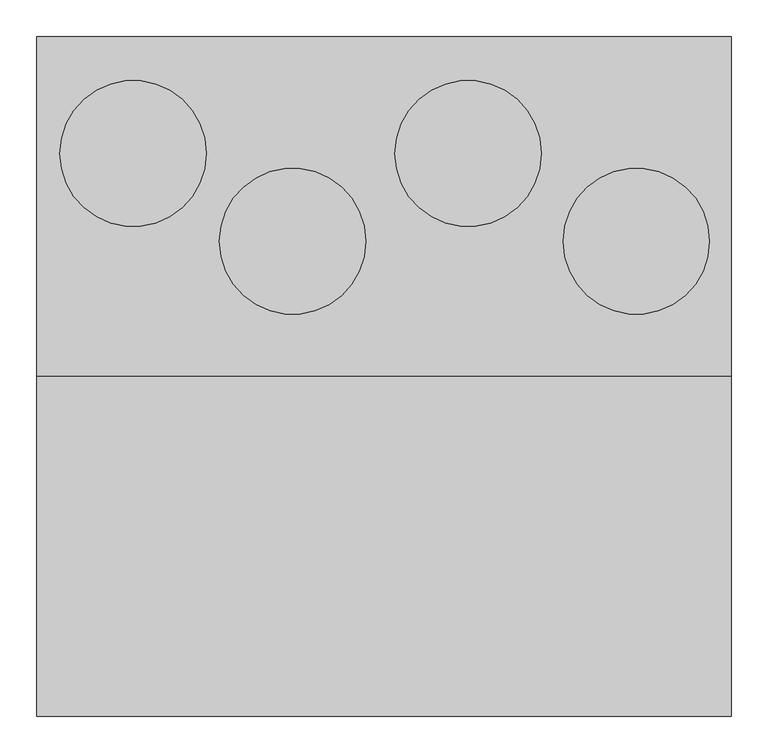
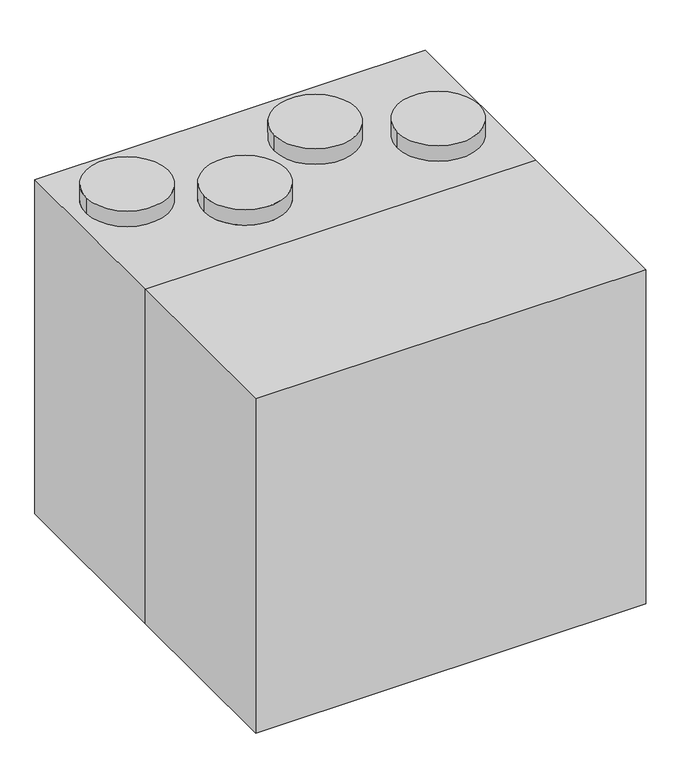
"""IFC4 building model written with IfcOpenShell, lengths in millimetres: proxy geometry, ADSK_КПВУ BRISSAGO VPE_круглая : Brissago VPE 800."""

import ifcopenshell
import ifcopenshell.guid

model = None  # the IFC model being written
_history = None  # IfcOwnerHistory: only IFC2X3 demands one
_inside = {}  # id of a spatial element -> (the spatial element, [elements in it])
_under = {}  # id of a project, library or spatial element -> (it, [spatial elements below it])
_declared = {}  # id of a project -> (the project, [libraries it declares])
_typed = {}  # id of a type object -> (the type object, [elements of that type])
_made_of = {}  # id of a material, layer set ... -> (it, [elements and type objects made of it])


def new_model(schema):
    """Start an empty IFC model of exactly this schema.

    Asked for "IFC4X3", IfcOpenShell would pick the latest addendum, in which some entities
    have other attributes; the version numbers below select the first issue.
    IFC2X3 requires an IfcOwnerHistory on every rooted entity: one is made here for all.
    """
    global model, _history
    if schema == "IFC4X3":
        model = ifcopenshell.file(schema_version=(4, 3, 0, 0))
    else:
        model = ifcopenshell.file(schema=schema)
    _inside.clear()
    _under.clear()
    _declared.clear()
    _typed.clear()
    _made_of.clear()
    _history = None
    if model.schema == "IFC2X3":
        org = make("IfcOrganization", Name="unknown")
        user = make(
            "IfcPersonAndOrganization",
            ThePerson=make("IfcPerson", FamilyName="unknown"),
            TheOrganization=org,
        )
        app = make(
            "IfcApplication",
            ApplicationDeveloper=org,
            Version="unknown",
            ApplicationFullName="unknown",
            ApplicationIdentifier="unknown",
        )
        _history = make(
            "IfcOwnerHistory",
            OwningUser=user,
            OwningApplication=app,
            ChangeAction="ADDED",
            CreationDate=0,
        )
    return model


def make(cls, **values):
    """One entity of the class cls with the attributes given. An attribute that is None is left unset."""
    return model.create_entity(
        cls, **{name: value for name, value in values.items() if value is not None}
    )


def rooted(cls, **values):
    """An entity with a GlobalId (a new one), such as an element, a storey or a relation."""
    return make(cls, GlobalId=ifcopenshell.guid.new(), OwnerHistory=_history, **values)


def si_unit(unit_type, name, prefix=None):
    """IfcSIUnit, for example si_unit("LENGTHUNIT", "METRE", prefix="MILLI")."""
    return make("IfcSIUnit", UnitType=unit_type, Prefix=prefix, Name=name)


def assignment(units):
    """IfcUnitAssignment: the units of a project."""
    return None if units is None else make("IfcUnitAssignment", Units=units)


def point(xyz):
    """IfcCartesianPoint."""
    return None if xyz is None else make("IfcCartesianPoint", Coordinates=xyz)


def direction(xyz):
    """IfcDirection."""
    return None if xyz is None else make("IfcDirection", DirectionRatios=xyz)


def frame(location, z_axis=None, x_axis=None):
    """IfcAxis2Placement3D, a coordinate frame: its origin and axes. An axis left out is left unset."""
    return make(
        "IfcAxis2Placement3D",
        Location=point(location),
        Axis=direction(z_axis),
        RefDirection=direction(x_axis),
    )


def origin():
    """The frame at (0, 0, 0) with its axes left unset."""
    return frame((0.0, 0.0, 0.0))


def origin_with_axes():
    """The frame at (0, 0, 0) with the z axis (0, 0, 1) and the x axis (1, 0, 0) written out."""
    return frame((0.0, 0.0, 0.0), z_axis=(0.0, 0.0, 1.0), x_axis=(1.0, 0.0, 0.0))


def place(relative_to, where):
    """IfcLocalPlacement: puts the frame where relative to a parent placement (None: the world)."""
    return make(
        "IfcLocalPlacement", PlacementRelTo=relative_to, RelativePlacement=where
    )


def context(
    kind, dimensions, precision=None, world=None, true_north=None, identifier=None
):
    """IfcGeometricRepresentationContext, for example the 3D "Model" context."""
    return make(
        "IfcGeometricRepresentationContext",
        ContextIdentifier=identifier,
        ContextType=kind,
        CoordinateSpaceDimension=dimensions,
        Precision=precision,
        WorldCoordinateSystem=world,
        TrueNorth=true_north,
    )


def project(units=None, contexts=None):
    """IfcProject with its units and contexts."""
    return rooted(
        "IfcProject",
        Name="project",
        RepresentationContexts=contexts,
        UnitsInContext=assignment(units),
    )


def spatial(cls, under=None, at=None, **own):
    """A site, building, storey or space (cls), placed at a placement, below another one or the project."""
    s = rooted(cls, ObjectPlacement=at, **own)
    if under is not None:
        _under.setdefault(under.id(), (under, []))[1].append(s)
    return s


def polyline(points):
    """IfcPolyline through the points."""
    return make("IfcPolyline", Points=[point(p) for p in points])


def circle_curve(where, radius):
    """IfcCircle in the frame where."""
    return make("IfcCircle", Position=where, Radius=radius)


def outline(outer, holes=None, kind="AREA"):
    """IfcArbitraryClosedProfileDef: a profile drawn as a closed curve; with holes, ...WithVoids."""
    if holes is None:
        return make("IfcArbitraryClosedProfileDef", ProfileType=kind, OuterCurve=outer)
    return make(
        "IfcArbitraryProfileDefWithVoids",
        ProfileType=kind,
        OuterCurve=outer,
        InnerCurves=holes,
    )


def extrude(swept, where, along, depth):
    """IfcExtrudedAreaSolid: the profile swept, set in the frame where, extruded along a direction by depth."""
    return make(
        "IfcExtrudedAreaSolid",
        SweptArea=swept,
        Position=where,
        ExtrudedDirection=direction(along),
        Depth=depth,
    )


def shape(context_of_items, identifier, shape_type, items):
    """IfcShapeRepresentation: the items that make up one representation, for example the "Body"."""
    return make(
        "IfcShapeRepresentation",
        ContextOfItems=context_of_items,
        RepresentationIdentifier=identifier,
        RepresentationType=shape_type,
        Items=items,
    )


def source(mapping_origin, context_of_items, identifier, shape_type, items):
    """IfcRepresentationMap: a shape defined once, which mapped items show again and again."""
    return make(
        "IfcRepresentationMap",
        MappingOrigin=mapping_origin,
        MappedRepresentation=shape(context_of_items, identifier, shape_type, items),
    )


def transform(
    local_origin,
    x_axis=None,
    y_axis=None,
    z_axis=None,
    scale=None,
    scale2=None,
    scale3=None,
    uniform=True,
):
    """IfcCartesianTransformationOperator3D, or its non-uniform kind. x_axis, y_axis, z_axis: its Axis1, 2, 3."""
    if uniform:
        return make(
            "IfcCartesianTransformationOperator3D",
            Axis1=direction(x_axis),
            Axis2=direction(y_axis),
            LocalOrigin=point(local_origin),
            Scale=scale,
            Axis3=direction(z_axis),
        )
    return make(
        "IfcCartesianTransformationOperator3DnonUniform",
        Axis1=direction(x_axis),
        Axis2=direction(y_axis),
        LocalOrigin=point(local_origin),
        Scale=scale,
        Axis3=direction(z_axis),
        Scale2=scale2,
        Scale3=scale3,
    )


def mapped(mapping_source, mapping_target):
    """IfcMappedItem: shows the shape of a source again, moved by a transform."""
    return make(
        "IfcMappedItem", MappingSource=mapping_source, MappingTarget=mapping_target
    )


def made_of(thing, what):
    """Note that an element or type object is made of a material, layer set ...; save() writes the relation."""
    if what is not None:
        _made_of.setdefault(what.id(), (what, []))[1].append(thing)
    return thing


def element(
    cls,
    number,
    at=None,
    inside=None,
    cuts=None,
    type_object=None,
    material=None,
    context=None,
    identifier="Body",
    shape_type=None,
    held_by="IfcProductDefinitionShape",
    body=None,
    shapes=None,
    **own,
):
    """One element of the class cls, such as IfcWall. Its Tag is "e" and its number.

    at: its placement. inside: the storey or other place that contains it. cuts: it is an
    opening in that element (IfcRelVoidsElement). A single representation is given by context,
    identifier, shape_type and body (its items); several are given by shapes. held_by: the class
    of the entity that holds the representations. save() writes the other relations.
    """
    e = rooted(cls, Tag="e%d" % number, ObjectPlacement=at, **own)
    if body is not None:
        shapes = [shape(context, identifier, shape_type, body)]
    if shapes is not None:
        e.Representation = make(held_by, Representations=shapes)
    if inside is not None:
        _inside.setdefault(inside.id(), (inside, []))[1].append(e)
    if cuts is not None:
        rooted(
            "IfcRelVoidsElement", RelatingBuildingElement=cuts, RelatedOpeningElement=e
        )
    if type_object is not None:
        _typed.setdefault(type_object.id(), (type_object, []))[1].append(e)
    return made_of(e, material)


def aggregate(whole, parts):
    """IfcRelAggregates: a whole, such as a stair, and the parts it consists of."""
    return rooted("IfcRelAggregates", RelatingObject=whole, RelatedObjects=parts)


def save(model, path):
    """Write the relations noted so far, then the file.

    IfcRelAggregates (storeys below a building ...), IfcRelContainedInSpatialStructure (elements
    in a storey), IfcRelDefinesByType, IfcRelAssociatesMaterial and IfcRelDeclares: one each for
    every whole, place, type object, material and project.
    """
    for whole, parts in _under.values():
        aggregate(whole, parts)
    for where, things in _inside.values():
        rooted(
            "IfcRelContainedInSpatialStructure",
            RelatedElements=things,
            RelatingStructure=where,
        )
    for kind, things in _typed.values():
        rooted("IfcRelDefinesByType", RelatedObjects=things, RelatingType=kind)
    for what, things in _made_of.values():
        rooted("IfcRelAssociatesMaterial", RelatedObjects=things, RelatingMaterial=what)
    for by, libraries in _declared.values():
        rooted("IfcRelDeclares", RelatingContext=by, RelatedDefinitions=libraries)
    model.write(path)


def plane_surface(at):
    """IfcPlane: the flat surface through the origin of the frame at, square to its z axis."""
    return make("IfcPlane", Position=at)


def cylinder_surface(at, radius):
    """IfcCylindricalSurface: all points at the distance radius from the z axis of the frame at."""
    return make("IfcCylindricalSurface", Position=at, Radius=radius)


def advanced_brep(points, edges, surfaces, faces):
    """IfcAdvancedBrep: a solid bounded by faces that lie on surfaces and meet in shared edges.

    An edge is (start, end): straight between two places in points (the first is 0);
    or (start, end, curve); or (start, end, curve, False) where it runs against its curve.
    A face is (place in surfaces, loops), or (place, loops, False) where it looks against
    its surface's normal. A loop lists edges by number (the first is 1), with a minus sign
    where the edge is run from its end to its start. The first loop is the outer one.
    """
    corners = [point(p) for p in points]
    vertices = [make("IfcVertexPoint", VertexGeometry=c) for c in corners]
    made = []
    for start, end, *more in edges:
        made.append(
            make(
                "IfcEdgeCurve",
                EdgeStart=vertices[start],
                EdgeEnd=vertices[end],
                EdgeGeometry=more[0] if more else make("IfcPolyline", Points=[corners[start], corners[end]]),
                SameSense=more[1] if len(more) > 1 else True,
            )
        )
    hull = []
    for where, loops, *sense in faces:
        bounds = []
        for j, loop in enumerate(loops):
            ring = [make("IfcOrientedEdge", EdgeElement=made[abs(k) - 1], Orientation=k > 0) for k in loop]
            bounds.append(
                make(
                    "IfcFaceOuterBound" if j == 0 else "IfcFaceBound",
                    Bound=make("IfcEdgeLoop", EdgeList=ring),
                    Orientation=True,
                )
            )
        hull.append(make("IfcAdvancedFace", Bounds=bounds, FaceSurface=surfaces[where], SameSense=sense[0] if sense else True))
    return make("IfcAdvancedBrep", Outer=make("IfcClosedShell", CfsFaces=hull))


def mechanical_equipment_f99d62ba(model_context):
    return source(origin(), model_context, "Body", "SolidModel", [
        extrude(outline(polyline([(741.0, -232.5), (741.0, -697.5), (-209.0, -697.5), (-209.0, -232.5), (741.0, -232.5)])), origin_with_axes(), (0.0, 0.0, 1.0), 860.0),
        advanced_brep(
        [(741.0, -232.5, 0.0), (741.0, -232.5, 860.0), (-209.0, -232.5, 860.0), (-209.0, -232.5, 0.0), (-209.0, 232.5, 0.0), (-209.0, 232.5, 860.0), (741.0, 232.5, 860.0), (741.0, 232.5, 0.0), (-177.0, 72.5, 900.0), (23.0, 72.5, 900.0), (41.0, -47.5, 900.0), (241.0, -47.5, 900.0), (281.0, 72.5, 900.0), (481.0, 72.5, 900.0), (511.0, -47.5, 900.0), (711.0, -47.5, 900.0), (-177.0, 72.5, 860.0), (23.0, 72.5, 860.0), (41.0, -47.5, 860.0), (241.0, -47.5, 860.0), (281.0, 72.5, 860.0), (481.0, 72.5, 860.0), (511.0, -47.5, 860.0), (711.0, -47.5, 860.0)],
        [
            (0, 1),
            (1, 2),
            (2, 3),
            (3, 0),
            (4, 5),
            (5, 6),
            (6, 7),
            (7, 4),
            (7, 0),
            (3, 4),
            (8, 9, circle_curve(frame((-77.0, 72.5, 900.0), z_axis=(0.0, 0.0, 1.0), x_axis=(1.0, 0.0, 0.0)), 100.0)),
            (9, 8, circle_curve(frame((-77.0, 72.5, 900.0), z_axis=(0.0, 0.0, 1.0), x_axis=(1.0, 0.0, 0.0)), 100.0)),
            (10, 11, circle_curve(frame((141.0, -47.5, 900.0), z_axis=(0.0, 0.0, 1.0), x_axis=(1.0, 0.0, 0.0)), 100.0)),
            (11, 10, circle_curve(frame((141.0, -47.5, 900.0), z_axis=(0.0, 0.0, 1.0), x_axis=(1.0, 0.0, 0.0)), 100.0)),
            (12, 13, circle_curve(frame((381.0, 72.5, 900.0), z_axis=(0.0, 0.0, 1.0), x_axis=(1.0, 0.0, 0.0)), 100.0)),
            (13, 12, circle_curve(frame((381.0, 72.5, 900.0), z_axis=(0.0, 0.0, 1.0), x_axis=(1.0, 0.0, 0.0)), 100.0)),
            (14, 15, circle_curve(frame((611.0, -47.5, 900.0), z_axis=(0.0, 0.0, 1.0), x_axis=(1.0, 0.0, 0.0)), 100.0)),
            (15, 14, circle_curve(frame((611.0, -47.5, 900.0), z_axis=(0.0, 0.0, 1.0), x_axis=(1.0, 0.0, 0.0)), 100.0)),
            (8, 16),
            (16, 17, circle_curve(frame((-77.0, 72.5, 860.0), z_axis=(0.0, 0.0, 1.0), x_axis=(1.0, 0.0, 0.0)), 100.0)),
            (17, 9),
            (17, 16, circle_curve(frame((-77.0, 72.5, 860.0), z_axis=(0.0, 0.0, 1.0), x_axis=(1.0, 0.0, 0.0)), 100.0)),
            (10, 18),
            (18, 19, circle_curve(frame((141.0, -47.5, 860.0), z_axis=(0.0, 0.0, 1.0), x_axis=(1.0, 0.0, 0.0)), 100.0)),
            (19, 11),
            (19, 18, circle_curve(frame((141.0, -47.5, 860.0), z_axis=(0.0, 0.0, 1.0), x_axis=(1.0, 0.0, 0.0)), 100.0)),
            (12, 20),
            (20, 21, circle_curve(frame((381.0, 72.5, 860.0), z_axis=(0.0, 0.0, 1.0), x_axis=(1.0, 0.0, 0.0)), 100.0)),
            (21, 13),
            (21, 20, circle_curve(frame((381.0, 72.5, 860.0), z_axis=(0.0, 0.0, 1.0), x_axis=(1.0, 0.0, 0.0)), 100.0)),
            (14, 22),
            (22, 23, circle_curve(frame((611.0, -47.5, 860.0), z_axis=(0.0, 0.0, 1.0), x_axis=(1.0, 0.0, 0.0)), 100.0)),
            (23, 15),
            (23, 22, circle_curve(frame((611.0, -47.5, 860.0), z_axis=(0.0, 0.0, 1.0), x_axis=(1.0, 0.0, 0.0)), 100.0)),
            (6, 1),
            (2, 5),
        ],
        [
            plane_surface(frame((-47.0, -232.5, 0.0), z_axis=(0.0, -1.0, 0.0), x_axis=(0.0, 0.0, 1.0))),
            plane_surface(frame((-47.0, 232.5, 0.0), z_axis=(0.0, 1.0, 0.0), x_axis=(0.0, 0.0, -1.0))),
            plane_surface(frame((-107.0, -232.5, 0.0), z_axis=(0.0, 0.0, -1.0), x_axis=(0.0, 1.0, 0.0))),
            plane_surface(frame((23.0, 72.5, 900.0), z_axis=(0.0, 0.0, 1.0), x_axis=(0.0, 1.0, 0.0))),
            cylinder_surface(frame((-77.0, 72.5, 860.0), z_axis=(0.0, 0.0, 1.0), x_axis=(1.0, 0.0, 0.0)), 100.0),
            cylinder_surface(frame((141.0, -47.5, 0.0), z_axis=(0.0, 0.0, 1.0), x_axis=(1.0, 0.0, 0.0)), 100.0),
            cylinder_surface(frame((381.0, 72.5, 0.0), z_axis=(0.0, 0.0, 1.0), x_axis=(1.0, 0.0, 0.0)), 100.0),
            cylinder_surface(frame((611.0, -47.5, 0.0), z_axis=(0.0, 0.0, 1.0), x_axis=(1.0, 0.0, 0.0)), 100.0),
            plane_surface(frame((741.0, -232.5, 860.0), z_axis=(1.0, 0.0, 0.0), x_axis=(0.0, 0.0, -1.0))),
            plane_surface(frame((-209.0, -232.5, 860.0), z_axis=(-1.0, 0.0, 0.0), x_axis=(0.0, 0.0, 1.0))),
            plane_surface(frame((741.0, 232.5, 860.0), z_axis=(0.0, 0.0, 1.0), x_axis=(-1.0, 0.0, 0.0))),
        ],
        [
            (0, [[1, 2, 3, 4]]),
            (1, [[5, 6, 7, 8]]),
            (2, [[-8, 9, -4, 10]]),
            (3, [[11, 12]]),
            (3, [[13, 14]]),
            (3, [[15, 16]]),
            (3, [[17, 18]]),
            (4, [[-11, 19, 20, 21]]),
            (4, [[-12, -21, 22, -19]]),
            (5, [[-13, 23, 24, 25]]),
            (5, [[-14, -25, 26, -23]]),
            (6, [[-15, 27, 28, 29]]),
            (6, [[-16, -29, 30, -27]]),
            (7, [[-17, 31, 32, 33]]),
            (7, [[-18, -33, 34, -31]]),
            (8, [[-1, -9, -7, 35]]),
            (9, [[36, -5, -10, -3]]),
            (10, [[-35, -6, -36, -2], [-20, -22], [-24, -26], [-28, -30], [-32, -34]]),
        ],
    ),
    ])


if __name__ == "__main__":
    model = new_model("IFC4")
    model_context = context("Model", 3, world=origin())
    ifc_project = project(units=[si_unit("LENGTHUNIT", "METRE", prefix="MILLI")], contexts=[model_context])
    site = spatial("IfcSite", under=ifc_project)
    building = spatial("IfcBuilding", under=site)
    placement = place(None, origin())
    mechanical_equipment_shape = mechanical_equipment_f99d62ba(model_context)
    element("IfcBuildingElementProxy", 1, Name="ADSK_КПВУ BRISSAGO VPE_круглая : Brissago VPE 800", ObjectType="ADSK_КПВУ BRISSAGO VPE_круглая : Brissago VPE 800", at=placement, inside=building, context=model_context, shape_type="MappedRepresentation", body=[
        mapped(mechanical_equipment_shape, transform((0.0, 0.0, 0.0), x_axis=(1.0, 0.0, 0.0), y_axis=(0.0, 1.0, 0.0), z_axis=(0.0, 0.0, 1.0))),
    ])
    save(model, "model.ifc")
